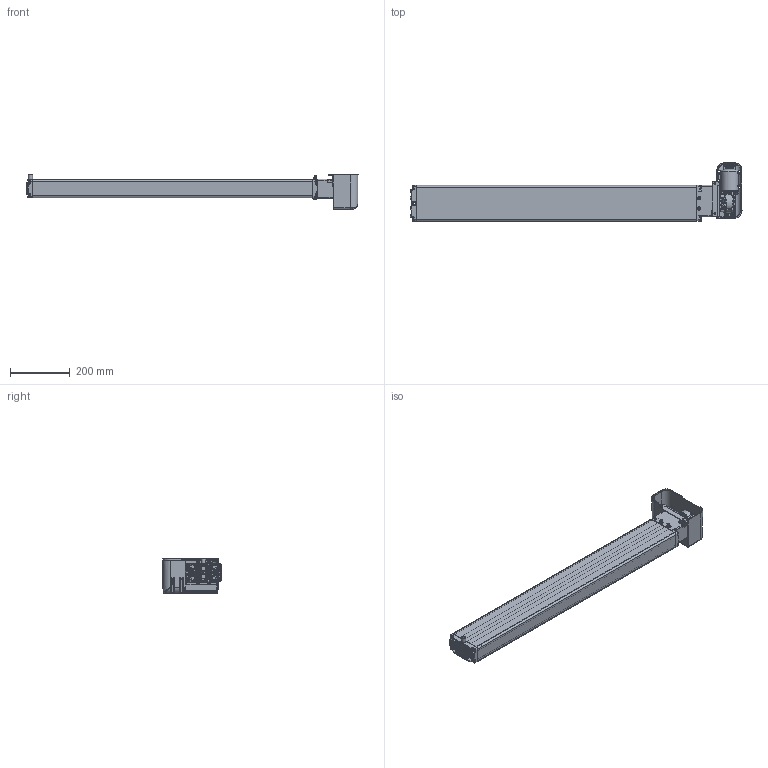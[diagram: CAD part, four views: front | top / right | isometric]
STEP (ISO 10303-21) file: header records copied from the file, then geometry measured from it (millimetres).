
FILE_DESCRIPTION(/* description */ ('Unknown'),/* implementation_level */ '2;1');
FILE_NAME(/* name */ '3X2.20327 Pumpe PB 6870 W mit Antrieb',/* time_stamp */ '2016-09-06T17:50:50+02:00',/* author */ ('Unknown'),/* organization */ ('Unknown'),/* preprocessor_version */ 'ST-DEVELOPER v16.7',/* originating_system */ 'DEX',/* authorisation */ $);
FILE_SCHEMA (('AUTOMOTIVE_DESIGN {1 0 10303 214 3 1 1}'));
Products named in the file (31): 102.20327; 115.00039; 125.00045; 115.00008; 142.00021; 125.00021; 142.00013; 125.00149; 115.00140; 126.00006; 122.00040; 119.00040; 126.00005; 127.00201; 127.00200; 127.00023; 124.00090; Getriebe; Ring; Schraube; Stator; Abdeckplatte; Antriebswelle; 128.00051; 123.00031; 142.00018; 142.00019; 142.00025; 142.00131; 123.00029; 142.00057
Assembly tree (47 placements, depth 3):
  102.20327
    115.00039  x6
      125.00045
      115.00008
      142.00021
      125.00021
    142.00013  x8
    125.00149
    115.00140
      126.00006
      122.00040
    119.00040
    126.00005
    127.00201
      127.00200
      127.00023
    124.00090
      Getriebe
      Ring
      Schraube
      Stator
      Abdeckplatte
      Antriebswelle
    128.00051
    123.00031
    142.00018  x2
    142.00019  x2
    142.00025  x2
    142.00131  x3
    123.00029
    142.00057
Bounding box: 1112.42 x 196.04 x 115.45 mm (x, y, z)
Volume: 1633670.6 mm3; surface area: 1094502.8 mm2
Topology: 52 solids, 54 shells, 4862 faces, 12306 edges, 7463 vertices
Faces by surface type: bspline 1367, plane 1333, cylinder 1277, cone 515, torus 270, sphere 100
Full cylindrical faces by diameter (mm): 2.5 x4, 3.2 x4, 3.5 x6, 3.9 x5, 4.1 x6, 4.2 x8, 4.4 x5, 4.5 x1, 4.917 x2, 5 x8, 5.5 x5, 6 x6, 6.4 x2, 6.8 x5, 6.917 x12, 7 x1, 8 x14, 8.5 x6, 9 x2, 9.5 x1, 9.8 x8, 10 x8, 10.3 x1, 10.32 x1, 10.4 x1, 11 x5, 14 x2, 14.4 x6, 15 x1, 17 x1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
Entity records: 202554 total; most frequent: CARTESIAN_POINT 105865, ORIENTED_EDGE 19210, DIRECTION 14206, EDGE_CURVE 9605, VERTEX_POINT 6188, AXIS2_PLACEMENT_3D 5593, FACE_BOUND 4587, EDGE_LOOP 4582
